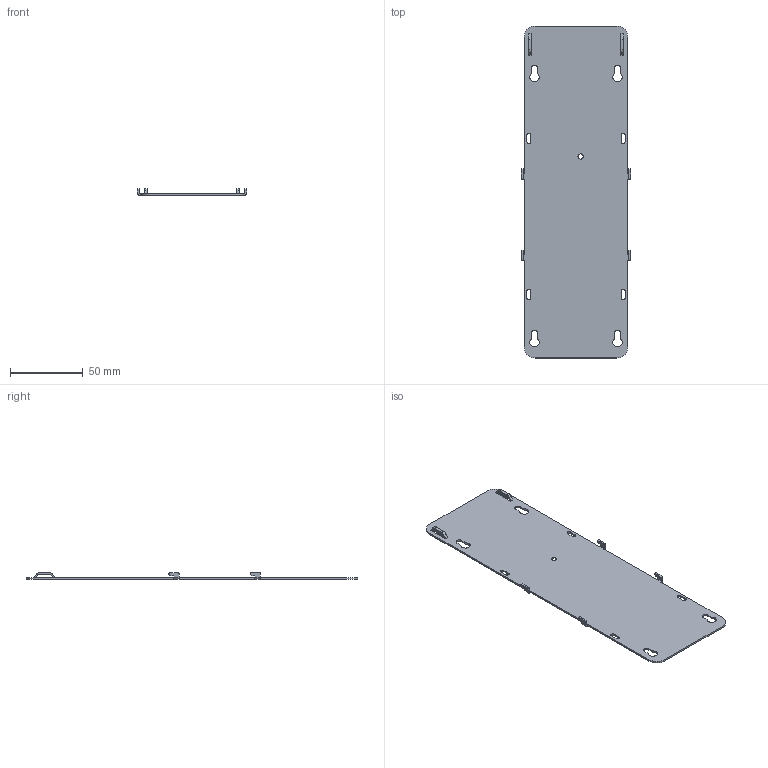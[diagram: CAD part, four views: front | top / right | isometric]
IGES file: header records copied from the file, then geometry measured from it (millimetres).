
Start section:  PTC IGES file: cu_panel_mount_myrio.igs
Global section: file name: cu_panel_mount_myrio.igs; native system: Pro/ENGINEER by Parametric Technology Corporation; preprocessor: 2011490; author: jbuhisan; organization: Unknown; date: 20130813.114746; units: inch
Bounding box: 75.38 x 228.6 x 4.7 mm (x, y, z)
Surface area: 33286.9 mm2 (no closed solid volume)
Topology: 0 solids, 0 shells, 184 faces, 956 edges, 956 vertices
Faces by surface type: bspline 130, revolution 54
